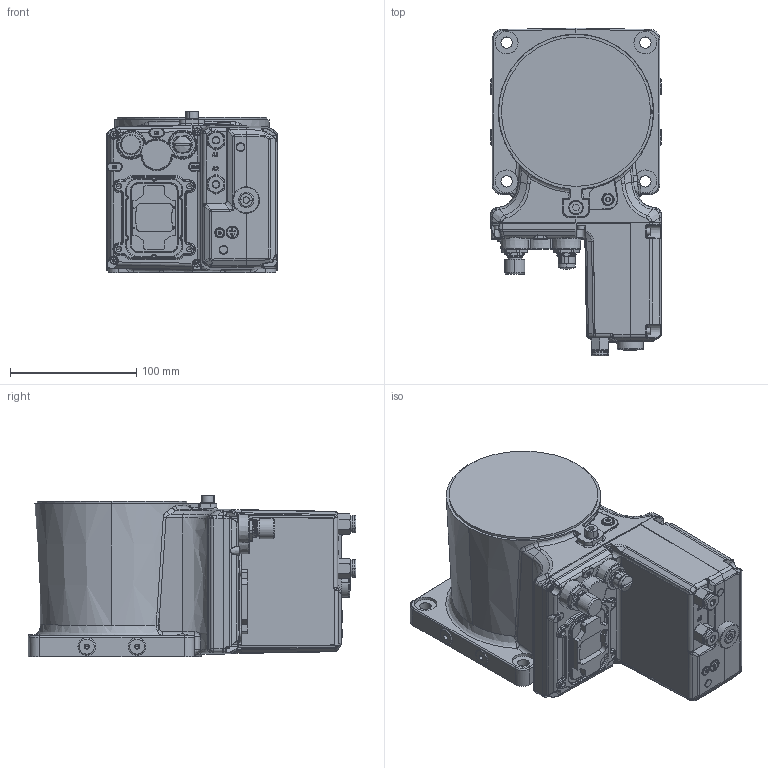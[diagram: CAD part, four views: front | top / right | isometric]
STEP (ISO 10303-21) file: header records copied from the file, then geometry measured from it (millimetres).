
FILE_DESCRIPTION (( 'STEP AP214' ), '1' );
FILE_NAME ('Link0.STEP', '2022-06-24T02:55:18', ( '' ), ( '' ), 'SwSTEP 2.0', 'SolidWorks 2020', '' );
FILE_SCHEMA (( 'AUTOMOTIVE_DESIGN' ));
Length unit declared in the file: millimetre
Products named in the file (1): Link0
Bounding box: 135 x 260 x 127.8 mm (x, y, z)
Volume: 2621856.5 mm3; surface area: 150526.3 mm2
Topology: 1 solids, 1 shells, 1827 faces, 4445 edges, 2677 vertices
Faces by surface type: plane 603, cylinder 431, bspline 422, torus 178, cone 165, sphere 28
Entity records: 72066 total; most frequent: CARTESIAN_POINT 32242, ORIENTED_EDGE 8814, DIRECTION 7442, EDGE_CURVE 4407, AXIS2_PLACEMENT_3D 2778, VERTEX_POINT 2677, EDGE_LOOP 1930, LINE 1886
